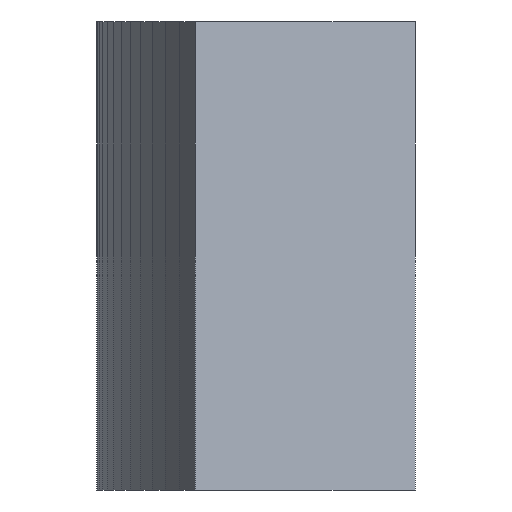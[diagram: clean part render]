
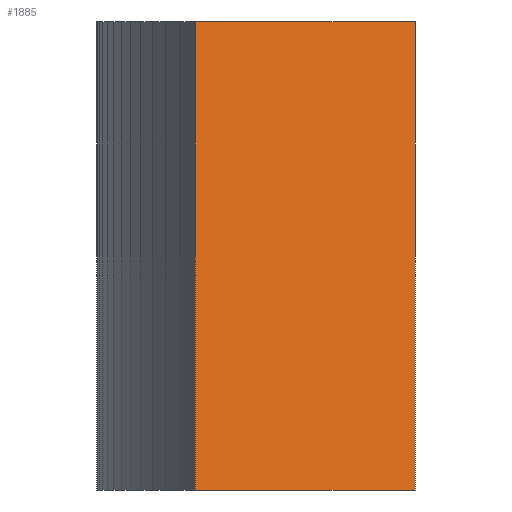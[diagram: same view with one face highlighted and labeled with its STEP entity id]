
A CAD part, left-side view. The second image highlights one B-rep face of the part: STEP entity #1885.
In plain terms, the highlighted planar face has unit normal (-0.94, -0.342, 0).
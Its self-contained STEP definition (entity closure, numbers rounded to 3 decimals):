
#72 = PLANE('',#73);
#73 = AXIS2_PLACEMENT_3D('',#74,#75,#76);
#74 = CARTESIAN_POINT('',(67.5,142.322,112.));
#75 = DIRECTION('',(0.,0.,1.));
#76 = DIRECTION('',(1.,0.,-0.));
#126 = PLANE('',#127);
#127 = AXIS2_PLACEMENT_3D('',#128,#129,#130);
#128 = CARTESIAN_POINT('',(67.5,142.322,104.));
#129 = DIRECTION('',(0.,0.,1.));
#130 = DIRECTION('',(1.,0.,-0.));
#1777 = PLANE('',#1778);
#1778 = AXIS2_PLACEMENT_3D('',#1779,#1780,#1781);
#1779 = CARTESIAN_POINT('',(58.693,143.492,104.));
#1780 = DIRECTION('',(0.328,-0.945,0.));
#1781 = DIRECTION('',(-0.945,-0.328,0.));
#1815 = VERTEX_POINT('',#1816);
#1816 = CARTESIAN_POINT('',(57.923,143.225,112.));
#1837 = EDGE_CURVE('',#1838,#1815,#1840,.T.);
#1838 = VERTEX_POINT('',#1839);
#1839 = CARTESIAN_POINT('',(57.923,143.225,104.));
#1840 = SURFACE_CURVE('',#1841,(#1845,#1852),.PCURVE_S1.);
#1841 = LINE('',#1842,#1843);
#1842 = CARTESIAN_POINT('',(57.923,143.225,104.));
#1843 = VECTOR('',#1844,1.);
#1844 = DIRECTION('',(0.,0.,1.));
#1845 = PCURVE('',#1777,#1846);
#1846 = DEFINITIONAL_REPRESENTATION('',(#1847),#1851);
#1847 = LINE('',#1848,#1849);
#1848 = CARTESIAN_POINT('',(0.814,0.));
#1849 = VECTOR('',#1850,1.);
#1850 = DIRECTION('',(0.,-1.));
#1851 = ( GEOMETRIC_REPRESENTATION_CONTEXT(2) 
PARAMETRIC_REPRESENTATION_CONTEXT() REPRESENTATION_CONTEXT('2D SPACE',''
  ) );
#1852 = PCURVE('',#1853,#1858);
#1853 = PLANE('',#1854);
#1854 = AXIS2_PLACEMENT_3D('',#1855,#1856,#1857);
#1855 = CARTESIAN_POINT('',(57.923,143.225,104.));
#1856 = DIRECTION('',(0.94,0.342,-0.));
#1857 = DIRECTION('',(0.342,-0.94,0.));
#1858 = DEFINITIONAL_REPRESENTATION('',(#1859),#1863);
#1859 = LINE('',#1860,#1861);
#1860 = CARTESIAN_POINT('',(0.,0.));
#1861 = VECTOR('',#1862,1.);
#1862 = DIRECTION('',(0.,-1.));
#1863 = ( GEOMETRIC_REPRESENTATION_CONTEXT(2) 
PARAMETRIC_REPRESENTATION_CONTEXT() REPRESENTATION_CONTEXT('2D SPACE',''
  ) );
#1885 = ADVANCED_FACE('',(#1886),#1853,.F.);
#1886 = FACE_BOUND('',#1887,.F.);
#1887 = EDGE_LOOP('',(#1888,#1889,#1912,#1940));
#1888 = ORIENTED_EDGE('',*,*,#1837,.T.);
#1889 = ORIENTED_EDGE('',*,*,#1890,.T.);
#1890 = EDGE_CURVE('',#1815,#1891,#1893,.T.);
#1891 = VERTEX_POINT('',#1892);
#1892 = CARTESIAN_POINT('',(59.292,139.466,112.));
#1893 = SURFACE_CURVE('',#1894,(#1898,#1905),.PCURVE_S1.);
#1894 = LINE('',#1895,#1896);
#1895 = CARTESIAN_POINT('',(57.923,143.225,112.));
#1896 = VECTOR('',#1897,1.);
#1897 = DIRECTION('',(0.342,-0.94,0.));
#1898 = PCURVE('',#1853,#1899);
#1899 = DEFINITIONAL_REPRESENTATION('',(#1900),#1904);
#1900 = LINE('',#1901,#1902);
#1901 = CARTESIAN_POINT('',(0.,-8.));
#1902 = VECTOR('',#1903,1.);
#1903 = DIRECTION('',(1.,0.));
#1904 = ( GEOMETRIC_REPRESENTATION_CONTEXT(2) 
PARAMETRIC_REPRESENTATION_CONTEXT() REPRESENTATION_CONTEXT('2D SPACE',''
  ) );
#1905 = PCURVE('',#72,#1906);
#1906 = DEFINITIONAL_REPRESENTATION('',(#1907),#1911);
#1907 = LINE('',#1908,#1909);
#1908 = CARTESIAN_POINT('',(-9.577,0.903));
#1909 = VECTOR('',#1910,1.);
#1910 = DIRECTION('',(0.342,-0.94));
#1911 = ( GEOMETRIC_REPRESENTATION_CONTEXT(2) 
PARAMETRIC_REPRESENTATION_CONTEXT() REPRESENTATION_CONTEXT('2D SPACE',''
  ) );
#1912 = ORIENTED_EDGE('',*,*,#1913,.F.);
#1913 = EDGE_CURVE('',#1914,#1891,#1916,.T.);
#1914 = VERTEX_POINT('',#1915);
#1915 = CARTESIAN_POINT('',(59.292,139.466,104.));
#1916 = SURFACE_CURVE('',#1917,(#1921,#1928),.PCURVE_S1.);
#1917 = LINE('',#1918,#1919);
#1918 = CARTESIAN_POINT('',(59.292,139.466,104.));
#1919 = VECTOR('',#1920,1.);
#1920 = DIRECTION('',(0.,0.,1.));
#1921 = PCURVE('',#1853,#1922);
#1922 = DEFINITIONAL_REPRESENTATION('',(#1923),#1927);
#1923 = LINE('',#1924,#1925);
#1924 = CARTESIAN_POINT('',(4.,0.));
#1925 = VECTOR('',#1926,1.);
#1926 = DIRECTION('',(0.,-1.));
#1927 = ( GEOMETRIC_REPRESENTATION_CONTEXT(2) 
PARAMETRIC_REPRESENTATION_CONTEXT() REPRESENTATION_CONTEXT('2D SPACE',''
  ) );
#1928 = PCURVE('',#1929,#1934);
#1929 = PLANE('',#1930);
#1930 = AXIS2_PLACEMENT_3D('',#1931,#1932,#1933);
#1931 = CARTESIAN_POINT('',(59.292,139.466,104.));
#1932 = DIRECTION('',(-0.328,0.945,0.));
#1933 = DIRECTION('',(0.945,0.328,0.));
#1934 = DEFINITIONAL_REPRESENTATION('',(#1935),#1939);
#1935 = LINE('',#1936,#1937);
#1936 = CARTESIAN_POINT('',(0.,0.));
#1937 = VECTOR('',#1938,1.);
#1938 = DIRECTION('',(0.,-1.));
#1939 = ( GEOMETRIC_REPRESENTATION_CONTEXT(2) 
PARAMETRIC_REPRESENTATION_CONTEXT() REPRESENTATION_CONTEXT('2D SPACE',''
  ) );
#1940 = ORIENTED_EDGE('',*,*,#1941,.F.);
#1941 = EDGE_CURVE('',#1838,#1914,#1942,.T.);
#1942 = SURFACE_CURVE('',#1943,(#1947,#1954),.PCURVE_S1.);
#1943 = LINE('',#1944,#1945);
#1944 = CARTESIAN_POINT('',(57.923,143.225,104.));
#1945 = VECTOR('',#1946,1.);
#1946 = DIRECTION('',(0.342,-0.94,0.));
#1947 = PCURVE('',#1853,#1948);
#1948 = DEFINITIONAL_REPRESENTATION('',(#1949),#1953);
#1949 = LINE('',#1950,#1951);
#1950 = CARTESIAN_POINT('',(0.,0.));
#1951 = VECTOR('',#1952,1.);
#1952 = DIRECTION('',(1.,0.));
#1953 = ( GEOMETRIC_REPRESENTATION_CONTEXT(2) 
PARAMETRIC_REPRESENTATION_CONTEXT() REPRESENTATION_CONTEXT('2D SPACE',''
  ) );
#1954 = PCURVE('',#126,#1955);
#1955 = DEFINITIONAL_REPRESENTATION('',(#1956),#1960);
#1956 = LINE('',#1957,#1958);
#1957 = CARTESIAN_POINT('',(-9.577,0.903));
#1958 = VECTOR('',#1959,1.);
#1959 = DIRECTION('',(0.342,-0.94));
#1960 = ( GEOMETRIC_REPRESENTATION_CONTEXT(2) 
PARAMETRIC_REPRESENTATION_CONTEXT() REPRESENTATION_CONTEXT('2D SPACE',''
  ) );
